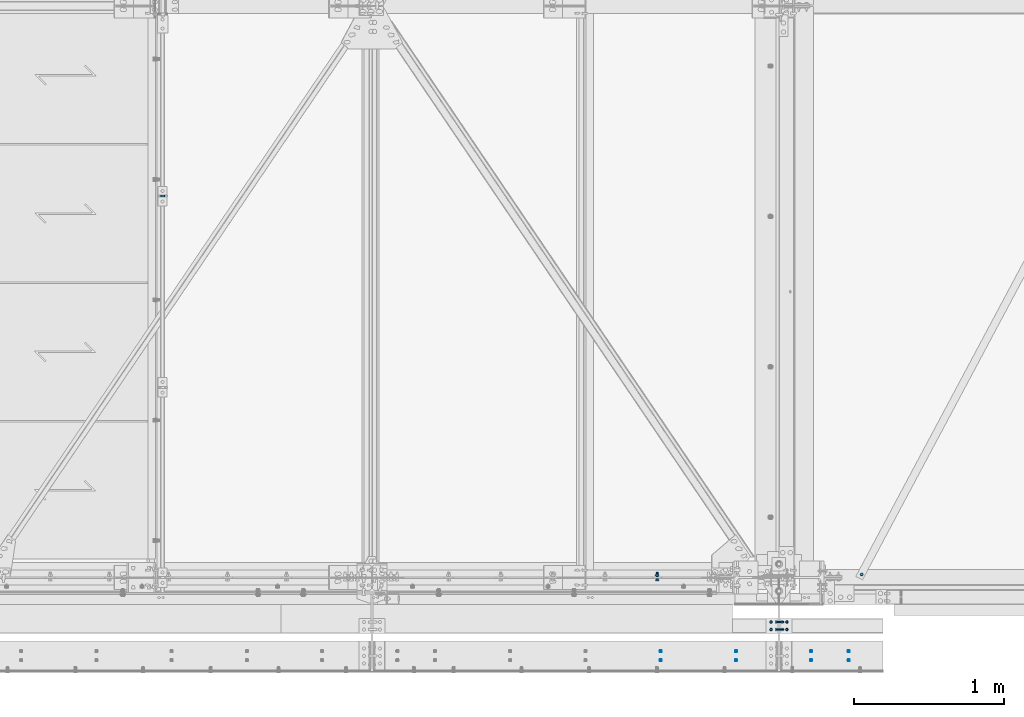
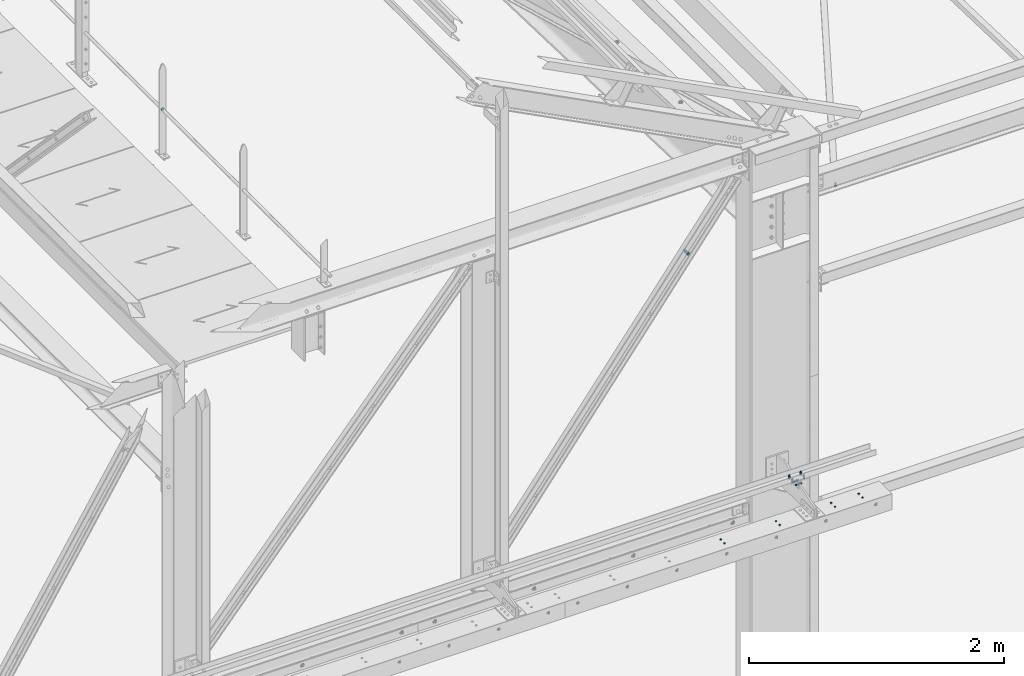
# One storey, part 270 of 362: 10 mechanical fasteners.
"""IFC2X3 building model written with IfcOpenShell, lengths in millimetres."""

from ifc_helpers import new_model, si_unit, frame, origin_with_axes, origin_2d_with_axis, place, context, subcontext, project, spatial, polyline, circle, outline, extrude, source, transform, mapped, material, type_object, element, save


model = new_model("IFC2X3")

# Units and contexts
model_context = context("Model", 3, precision=1e-05, world=origin_with_axes())
body_context = subcontext(model_context, "Body", "Model", "MODEL_VIEW")
ifc_project = project(units=[si_unit("LENGTHUNIT", "METRE", prefix="MILLI"), si_unit("AREAUNIT", "SQUARE_METRE"), si_unit("VOLUMEUNIT", "CUBIC_METRE"), si_unit("MASSUNIT", "GRAM", prefix="KILO"), si_unit("TIMEUNIT", "SECOND"), si_unit("PLANEANGLEUNIT", "RADIAN"), si_unit("SOLIDANGLEUNIT", "STERADIAN"), si_unit("THERMODYNAMICTEMPERATUREUNIT", "DEGREE_CELSIUS"), si_unit("LUMINOUSINTENSITYUNIT", "LUMEN")], contexts=[model_context])

# Site, building, storey
site_placement = place(None, origin_with_axes())
site = spatial("IfcSite", under=ifc_project, at=site_placement, Name="Undefined", CompositionType="ELEMENT")
building_placement = place(site_placement, origin_with_axes())
building = spatial("IfcBuilding", under=site, at=building_placement, Name="Undefined", CompositionType="ELEMENT")
storey_placement = place(building_placement, origin_with_axes())
storey = spatial("IfcBuildingStorey", under=building, at=storey_placement, Name="Undefined", CompositionType="ELEMENT", Elevation=0.0)

# Mechanical fasteners
ifc_material_1 = material(Name="8.8-SB-ZINGUE")
mechanical_fastener_type = type_object("IfcMechanicalFastenerType", Name="Bolt assembly")
shared_shape_1 = source(origin_with_axes(), body_context, "Body", "SweptSolid", [
    extrude(circle(Radius=7.0, at=origin_2d_with_axis()), frame((0.0, -8.5, 0.0), z_axis=(0.0, 1.0, 0.0), x_axis=(1.0, 0.0, 0.0)), (0.0, 0.0, 1.0), 8.6),
])
for number, where, z_axis, x_axis, name in (
    (1, (28094.9989211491, -490.0, 5229.99824538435), (-1.0, 0.0, 0.0), (0.0, -1.0, 0.0), "Bolt assembly"),
    (2, (28594.9989211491, -490.0, 5229.99824538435), (-1.0, 0.0, 0.0), (0.0, -1.0, 0.0), "Bolt assembly"),
    (3, (29094.9989211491, -490.0, 5229.99824538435), (-1.0, 0.0, 0.0), (0.0, -1.0, 0.0), "Bolt assembly"),
    (4, (29344.9989211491, -490.0, 5229.99824538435), (-1.0, 0.0, 0.0), (0.0, -1.0, 0.0), "Bolt assembly"),
):
    element("IfcMechanicalFastener", number, at=place(storey_placement, frame(where, z_axis=z_axis, x_axis=x_axis)), inside=storey, type_object=mechanical_fastener_type, material=ifc_material_1, Name=name, NominalDiameter=12.0, NominalLength=8.5, context=body_context, shape_type="MappedRepresentation", body=[
        mapped(shared_shape_1, transform((0.0, 0.0, 0.0))),
        mapped(shared_shape_1, transform((60.0, 0.0, 0.0))),
    ])
shared_shape_2 = source(origin_with_axes(), body_context, "Body", "SweptSolid", [
    extrude(circle(Radius=7.0, at=origin_2d_with_axis()), frame((0.0, -7.5, 0.0), z_axis=(0.0, 1.0, 0.0), x_axis=(1.0, 0.0, 0.0)), (0.0, 0.0, 1.0), 15.0),
    extrude(circle(Radius=7.0, at=origin_2d_with_axis()), frame((0.0, -15.4, 0.0), z_axis=(0.0, 1.0, 0.0), x_axis=(1.0, 0.0, 0.0)), (0.0, 0.0, 1.0), 8.0),
    extrude(circle(Radius=7.0, at=origin_2d_with_axis()), frame((0.0, 7.39216762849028, 0.0), z_axis=(0.0, 1.0, 0.0), x_axis=(1.0, 0.0, 0.0)), (0.0, 0.0, 1.0), 8.1),
    extrude(outline(polyline([(10.39230484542, 0.0), (5.19615242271, 9.00000000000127), (-5.19615242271, 9.00000000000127), (-10.39230484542, 0.0), (-5.19615242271, -9.00000000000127), (5.19615242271, -9.00000000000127), (10.39230484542, 0.0)])), frame((0.0, -23.42, 0.0), z_axis=(0.0, 1.0, 0.0), x_axis=(1.0, 0.0, 0.0)), (0.0, 0.0, 1.0), 7.92),
    extrude(circle(Radius=6.0, at=origin_2d_with_axis()), frame((0.0, -15.5, 0.0), z_axis=(0.0, 1.0, 0.0), x_axis=(1.0, 0.0, 0.0)), (0.0, 0.0, 1.0), 50.0),
    extrude(outline(polyline([(11.5008173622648, 0.0), (5.7504086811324, 9.96000000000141), (-5.7504086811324, 9.96000000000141), (-11.5008173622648, 0.0), (-5.7504086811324, -9.96000000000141), (5.7504086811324, -9.96000000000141), (11.5008173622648, 0.0)])), frame((0.0, 15.4921676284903, 0.0), z_axis=(0.0, 1.0, 0.0), x_axis=(1.0, 0.0, 0.0)), (0.0, 0.0, 1.0), 7.92),
])
mechanical_fastener_1_placement = place(storey_placement, frame((28880.0, -320.0, 5394.99824538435), z_axis=(0.0, 1.0, 0.0), x_axis=(0.0, 0.0, 1.0)))
element("IfcMechanicalFastener", 5, at=mechanical_fastener_1_placement, inside=storey, type_object=mechanical_fastener_type, material=ifc_material_1, Name="Bolt assembly", NominalDiameter=12.0, NominalLength=50.0, context=body_context, shape_type="MappedRepresentation", body=[
    mapped(shared_shape_2, transform((0.0, 0.0, -25.0))),
    mapped(shared_shape_2, transform((0.0, 0.0, 25.0))),
])
shared_shape_3 = source(origin_with_axes(), body_context, "Body", "SweptSolid", [
    extrude(circle(Radius=7.0, at=origin_2d_with_axis()), frame((0.0, -0.100011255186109, 0.0), z_axis=(0.0, 1.0, 0.0), x_axis=(1.0, 0.0, 0.0)), (0.0, 0.0, 1.0), 4.1),
    extrude(circle(Radius=7.0, at=origin_2d_with_axis()), frame((0.0, -7.9, 0.0), z_axis=(0.0, 1.0, 0.0), x_axis=(1.0, 0.0, 0.0)), (0.0, 0.0, 1.0), 8.0),
    extrude(outline(polyline([(10.39230484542, 0.0), (5.19615242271, 9.00000000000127), (-5.19615242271, 9.00000000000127), (-10.39230484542, 0.0), (-5.19615242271, -9.00000000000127), (5.19615242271, -9.00000000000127), (10.39230484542, 0.0)])), frame((0.0, -15.92, 0.0), z_axis=(0.0, 1.0, 0.0), x_axis=(1.0, 0.0, 0.0)), (0.0, 0.0, 1.0), 7.92),
    extrude(circle(Radius=6.0, at=origin_2d_with_axis()), frame((0.0, -8.0, 0.0), z_axis=(0.0, 1.0, 0.0), x_axis=(1.0, 0.0, 0.0)), (0.0, 0.0, 1.0), 30.0),
    extrude(outline(polyline([(11.5008173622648, 0.0), (5.7504086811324, 9.96000000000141), (-5.7504086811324, 9.96000000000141), (-11.5008173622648, 0.0), (-5.7504086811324, -9.96000000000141), (5.7504086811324, -9.96000000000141), (11.5008173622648, 0.0)])), frame((0.0, 4.00000005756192, 0.0), z_axis=(0.0, 1.0, 0.0), x_axis=(1.0, 0.0, 0.0)), (0.0, 0.0, 1.0), 7.92),
])
for number, where, z_axis, x_axis, name in (
    (6, (28932.4921676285, -320.0, 5449.99824532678), (0.0, 1.0, 0.0), (-1.0, 0.0, 0.0), "Bolt assembly"),
    (7, (28827.5, -320.0, 5449.99824532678), (0.0, -1.0, 0.0), (1.0, 0.0, 0.0), "Bolt assembly"),
):
    element("IfcMechanicalFastener", number, at=place(storey_placement, frame(where, z_axis=z_axis, x_axis=x_axis)), inside=storey, type_object=mechanical_fastener_type, material=ifc_material_1, Name=name, NominalDiameter=12.0, NominalLength=30.0, context=body_context, shape_type="MappedRepresentation", body=[
        mapped(shared_shape_3, transform((0.0, 0.0, -25.0))),
        mapped(shared_shape_3, transform((0.0, 0.0, 25.0))),
    ])
shared_shape_4 = source(origin_with_axes(), body_context, "Body", "SweptSolid", [
    extrude(circle(Radius=9.0, at=origin_2d_with_axis()), frame((0.0, -10.9000000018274, 0.0), z_axis=(0.0, 1.0, 0.0), x_axis=(1.0, 0.0, 0.0)), (0.0, 0.0, 1.0), 6.0),
    extrude(circle(Radius=9.0, at=origin_2d_with_axis()), frame((0.0, 4.9000000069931, 0.0), z_axis=(0.0, 1.0, 0.0), x_axis=(1.0, 0.0, 0.0)), (0.0, 0.0, 1.0), 6.1),
    extrude(circle(Radius=9.0, at=origin_2d_with_axis()), frame((0.0, -3.99999923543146, 0.0), z_axis=(0.0, 1.0, 0.0), x_axis=(1.0, 0.0, 0.0)), (0.0, 0.0, 1.0), 8.0),
    extrude(outline(polyline([(13.85640646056, 0.0), (6.92820323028, 12.0000000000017), (-6.92820323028, 12.0000000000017), (-13.85640646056, 0.0), (-6.92820323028, -12.0000000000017), (6.92820323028, -12.0000000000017), (13.85640646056, 0.0)])), frame((0.0, -21.5600000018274, 0.0), z_axis=(0.0, 1.0, 0.0), x_axis=(1.0, 0.0, 0.0)), (0.0, 0.0, 1.0), 10.56),
    extrude(circle(Radius=8.0, at=origin_2d_with_axis()), frame((0.0, -11.0000000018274, 0.0), z_axis=(0.0, 1.0, 0.0), x_axis=(1.0, 0.0, 0.0)), (0.0, 0.0, 1.0), 50.0),
    extrude(outline(polyline([(15.3344231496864, 0.0), (7.6672115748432, 13.2800000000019), (-7.6672115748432, 13.2800000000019), (-15.3344231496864, 0.0), (-7.6672115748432, -13.2800000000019), (7.6672115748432, -13.2800000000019), (15.3344231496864, 0.0)])), frame((0.0, 11.0000000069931, 0.0), z_axis=(0.0, 1.0, 0.0), x_axis=(1.0, 0.0, 0.0)), (0.0, 0.0, 1.0), 10.56),
])
mechanical_fastener_2_placement = place(storey_placement, frame((28070.3688503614, 0.0, 7688.26637395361), z_axis=(1.0, 0.0, 0.0), x_axis=(0.0, 0.0, -1.0)))
element("IfcMechanicalFastener", 8, at=mechanical_fastener_2_placement, inside=storey, type_object=mechanical_fastener_type, material=ifc_material_1, Name="Bolt assembly", NominalDiameter=16.0, NominalLength=50.0, context=body_context, shape_type="MappedRepresentation", body=[
    mapped(shared_shape_4, transform((0.0, 0.0, 0.0))),
])
shared_shape_5 = source(origin_with_axes(), body_context, "Body", "SweptSolid", [
    extrude(circle(Radius=7.0, at=origin_2d_with_axis()), frame((0.0, -8.39498354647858, 0.0), z_axis=(0.0, 1.0, 0.0), x_axis=(1.0, 0.0, 0.0)), (0.0, 0.0, 1.0), 8.5),
    extrude(circle(Radius=7.0, at=origin_2d_with_axis()), frame((0.0, -0.100011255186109, 0.0), z_axis=(0.0, 1.0, 0.0), x_axis=(1.0, 0.0, 0.0)), (0.0, 0.0, 1.0), 5.1),
    extrude(outline(polyline([(10.39230484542, 0.0), (5.19615242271, 9.00000000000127), (-5.19615242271, 9.00000000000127), (-10.39230484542, 0.0), (-5.19615242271, -9.00000000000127), (5.19615242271, -9.00000000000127), (10.39230484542, 0.0)])), frame((0.0, -16.4149835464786, 0.0), z_axis=(0.0, 1.0, 0.0), x_axis=(1.0, 0.0, 0.0)), (0.0, 0.0, 1.0), 7.92),
    extrude(circle(Radius=6.0, at=origin_2d_with_axis()), frame((0.0, -8.49498354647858, 0.0), z_axis=(0.0, 1.0, 0.0), x_axis=(1.0, 0.0, 0.0)), (0.0, 0.0, 1.0), 30.0),
    extrude(outline(polyline([(11.5008173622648, 0.0), (5.7504086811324, 9.96000000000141), (-5.7504086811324, 9.96000000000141), (-11.5008173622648, 0.0), (-5.7504086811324, -9.96000000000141), (5.7504086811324, -9.96000000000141), (11.5008173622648, 0.0)])), frame((0.0, 5.0, 0.0), z_axis=(0.0, 1.0, 0.0), x_axis=(1.0, 0.0, 0.0)), (0.0, 0.0, 1.0), 7.92),
])
mechanical_fastener_3_placement = place(storey_placement, frame((29430.0000126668, 21.8467578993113, 7849.22159353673), z_axis=(0.0, -0.999506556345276, 0.031410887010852), x_axis=(-1.0, 0.0, 0.0)))
element("IfcMechanicalFastener", 9, at=mechanical_fastener_3_placement, inside=storey, type_object=mechanical_fastener_type, material=ifc_material_1, Name="Bolt assembly", NominalDiameter=12.0, NominalLength=30.0, context=body_context, shape_type="MappedRepresentation", body=[
    mapped(shared_shape_5, transform((0.0, 0.0, 0.0))),
])
ifc_material_2 = material(Name="6.8")
shared_shape_6 = source(origin_with_axes(), body_context, "Body", "SweptSolid", [
    extrude(circle(Radius=14.0, at=origin_2d_with_axis()), frame((0.0, -5.00000000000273, 0.0), z_axis=(0.0, 1.0, 0.0), x_axis=(1.0, 0.0, 0.0)), (0.0, 0.0, 1.0), 10.1),
])
mechanical_fastener_4_placement = place(storey_placement, frame((24783.9915998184, 2535.00344013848, 8673.80000564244), z_axis=(0.0, 0.0, 1.0), x_axis=(-1.0, 0.0, 0.0)))
element("IfcMechanicalFastener", 10, at=mechanical_fastener_4_placement, inside=storey, type_object=mechanical_fastener_type, material=ifc_material_2, Name="Bolt assembly", NominalDiameter=27.0, NominalLength=10.0, context=body_context, shape_type="MappedRepresentation", body=[
    mapped(shared_shape_6, transform((0.0, 0.0, 0.0))),
])

save(model, "model.ifc")
